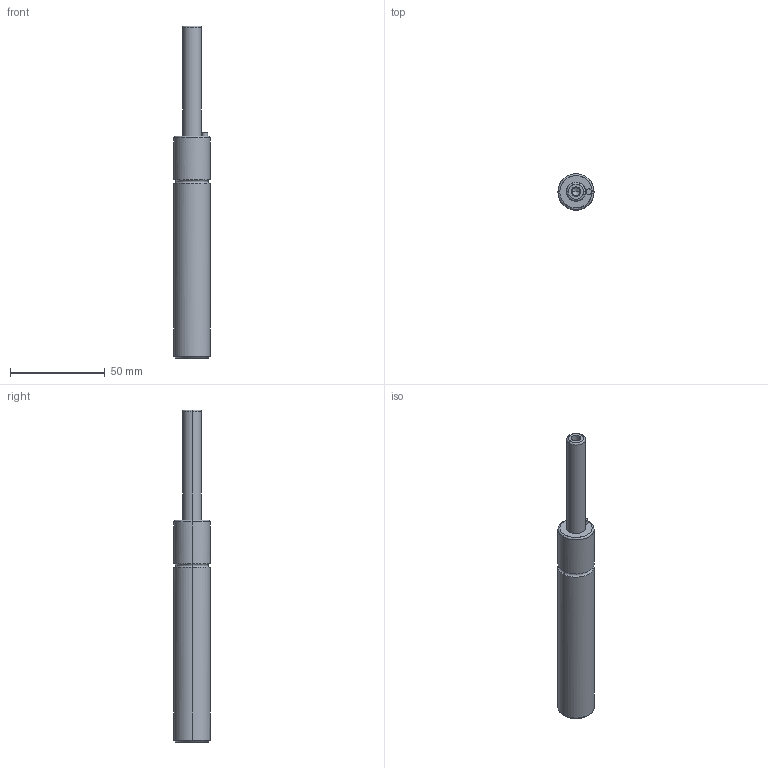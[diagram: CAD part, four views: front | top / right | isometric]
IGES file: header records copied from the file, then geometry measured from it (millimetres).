
Global section: file name: E:\UnigraphicsGraphicData\MISUMI_PRESS-PARTS\IGES\3d_gsm19-56_03895_r00.igs; native system: NX V5.0; preprocessor: UGS NX IGES V5.0; author: MISUMI; date: 20110105.160806; units: millimetre
Bounding box: 19 x 18.98 x 175 mm (x, y, z)
Surface area: 9691.2 mm2 (no closed solid volume)
Topology: 0 solids, 0 shells, 34 faces, 208 edges, 204 vertices
Faces by surface type: bspline 34
